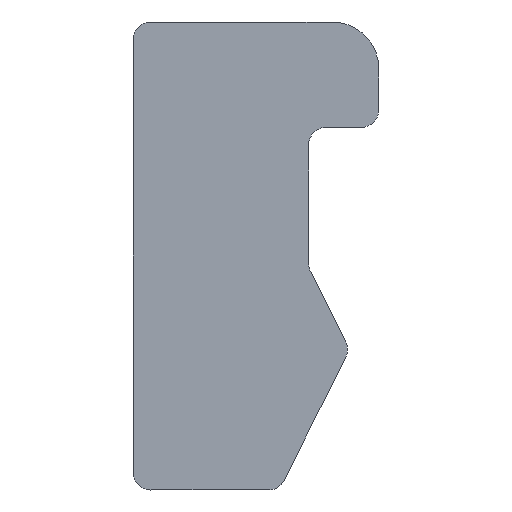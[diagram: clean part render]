
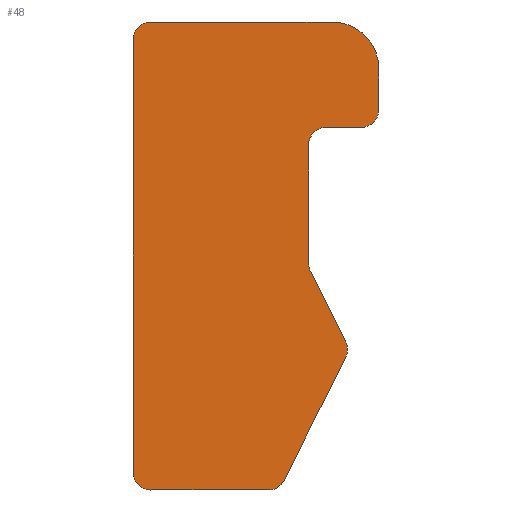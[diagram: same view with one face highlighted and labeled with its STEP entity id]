
A CAD part, left-side view. The second image highlights one B-rep face of the part: STEP entity #48.
In plain terms, the highlighted planar face has unit normal (-1, 0, 0).
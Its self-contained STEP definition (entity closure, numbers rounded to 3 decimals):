
#48=ADVANCED_FACE('',(#104),#105,.T.);
#104=FACE_OUTER_BOUND('',#165,.T.);
#105=PLANE('',#166);
#165=EDGE_LOOP('',(#235,#236,#237,#238,#239,#240,#241,#242,#243,#244,#245,#246,#247,#248,#249,#250));
#166=AXIS2_PLACEMENT_3D('',#251,#252,#253);
#235=ORIENTED_EDGE('',*,*,#386,.F.);
#236=ORIENTED_EDGE('',*,*,#394,.F.);
#237=ORIENTED_EDGE('',*,*,#395,.F.);
#238=ORIENTED_EDGE('',*,*,#396,.F.);
#239=ORIENTED_EDGE('',*,*,#397,.F.);
#240=ORIENTED_EDGE('',*,*,#398,.F.);
#241=ORIENTED_EDGE('',*,*,#399,.F.);
#242=ORIENTED_EDGE('',*,*,#400,.F.);
#243=ORIENTED_EDGE('',*,*,#401,.F.);
#244=ORIENTED_EDGE('',*,*,#402,.F.);
#245=ORIENTED_EDGE('',*,*,#391,.F.);
#246=ORIENTED_EDGE('',*,*,#403,.F.);
#247=ORIENTED_EDGE('',*,*,#381,.F.);
#248=ORIENTED_EDGE('',*,*,#404,.F.);
#249=ORIENTED_EDGE('',*,*,#405,.F.);
#250=ORIENTED_EDGE('',*,*,#406,.F.);
#251=CARTESIAN_POINT('',(0.0,2.7,1.5));
#252=DIRECTION('',(-1.0,0.0,0.0));
#253=DIRECTION('',(0.0,1.0,0.0));
#381=EDGE_CURVE('',#448,#450,#451,.T.);
#386=EDGE_CURVE('',#457,#459,#460,.T.);
#391=EDGE_CURVE('',#466,#468,#469,.T.);
#394=EDGE_CURVE('',#472,#457,#473,.T.);
#395=EDGE_CURVE('',#474,#472,#475,.T.);
#396=EDGE_CURVE('',#476,#474,#477,.T.);
#397=EDGE_CURVE('',#478,#476,#479,.T.);
#398=EDGE_CURVE('',#480,#478,#481,.T.);
#399=EDGE_CURVE('',#482,#480,#483,.T.);
#400=EDGE_CURVE('',#484,#482,#485,.T.);
#401=EDGE_CURVE('',#486,#484,#487,.T.);
#402=EDGE_CURVE('',#468,#486,#488,.T.);
#403=EDGE_CURVE('',#450,#466,#489,.T.);
#404=EDGE_CURVE('',#490,#448,#491,.T.);
#405=EDGE_CURVE('',#492,#490,#493,.T.);
#406=EDGE_CURVE('',#459,#492,#494,.T.);
#448=VERTEX_POINT('',#546);
#450=VERTEX_POINT('',#549);
#451=CIRCLE('',#550,0.3);
#457=VERTEX_POINT('',#557);
#459=VERTEX_POINT('',#560);
#460=CIRCLE('',#561,0.3);
#466=VERTEX_POINT('',#568);
#468=VERTEX_POINT('',#571);
#469=CIRCLE('',#572,0.3);
#472=VERTEX_POINT('',#576);
#473=LINE('',#577,#578);
#474=VERTEX_POINT('',#579);
#475=CIRCLE('',#580,0.3);
#476=VERTEX_POINT('',#581);
#477=LINE('',#582,#583);
#478=VERTEX_POINT('',#584);
#479=CIRCLE('',#585,0.3);
#480=VERTEX_POINT('',#586);
#481=LINE('',#587,#588);
#482=VERTEX_POINT('',#589);
#483=CIRCLE('',#590,0.3);
#484=VERTEX_POINT('',#591);
#485=LINE('',#592,#593);
#486=VERTEX_POINT('',#594);
#487=CIRCLE('',#595,0.3);
#488=LINE('',#596,#597);
#489=LINE('',#598,#599);
#490=VERTEX_POINT('',#600);
#491=LINE('',#601,#602);
#492=VERTEX_POINT('',#603);
#493=CIRCLE('',#604,0.8);
#494=LINE('',#605,#606);
#546=CARTESIAN_POINT('',(0.0,-1.2,0.3));
#549=CARTESIAN_POINT('',(0.0,-0.9,0.));
#550=AXIS2_PLACEMENT_3D('',#676,#677,#678);
#557=CARTESIAN_POINT('',(0.0,3.,1.5));
#560=CARTESIAN_POINT('',(0.0,2.7,1.8));
#561=AXIS2_PLACEMENT_3D('',#684,#685,#686);
#568=CARTESIAN_POINT('',(0.0,-0.3,0.));
#571=CARTESIAN_POINT('',(0.0,0.0,-0.3));
#572=AXIS2_PLACEMENT_3D('',#692,#693,#694);
#576=CARTESIAN_POINT('',(0.0,3.0,-5.9));
#577=CARTESIAN_POINT('',(0.0,3.0,-5.9));
#578=VECTOR('',#696,1.0);
#579=CARTESIAN_POINT('',(0.0,2.7,-6.2));
#580=AXIS2_PLACEMENT_3D('',#697,#698,#699);
#581=CARTESIAN_POINT('',(0.0,0.685,-6.2));
#582=CARTESIAN_POINT('',(0.0,0.685,-6.2));
#583=VECTOR('',#700,1.0);
#584=CARTESIAN_POINT('',(0.0,0.417,-6.034));
#585=AXIS2_PLACEMENT_3D('',#701,#702,#703);
#586=CARTESIAN_POINT('',(0.0,-0.633,-3.934));
#587=CARTESIAN_POINT('',(0.0,-0.633,-3.934));
#588=VECTOR('',#704,1.0);
#589=CARTESIAN_POINT('',(0.0,-0.633,-3.666));
#590=AXIS2_PLACEMENT_3D('',#705,#706,#707);
#591=CARTESIAN_POINT('',(0.0,-0.032,-2.463));
#592=CARTESIAN_POINT('',(0.0,-0.032,-2.463));
#593=VECTOR('',#708,1.0);
#594=CARTESIAN_POINT('',(0.0,0.,-2.329));
#595=AXIS2_PLACEMENT_3D('',#709,#710,#711);
#596=CARTESIAN_POINT('',(0.0,0.0,-0.3));
#597=VECTOR('',#712,1.0);
#598=CARTESIAN_POINT('',(0.0,-0.9,0.));
#599=VECTOR('',#713,1.0);
#600=CARTESIAN_POINT('',(0.0,-1.2,1.));
#601=CARTESIAN_POINT('',(0.0,-1.2,1.));
#602=VECTOR('',#714,1.0);
#603=CARTESIAN_POINT('',(0.0,-0.4,1.8));
#604=AXIS2_PLACEMENT_3D('',#715,#716,#717);
#605=CARTESIAN_POINT('',(0.0,2.7,1.8));
#606=VECTOR('',#718,1.0);
#676=CARTESIAN_POINT('',(0.0,-0.9,0.3));
#677=DIRECTION('',(1.0,0.0,0.0));
#678=DIRECTION('',(0.0,1.0,0.0));
#684=CARTESIAN_POINT('',(0.0,2.7,1.5));
#685=DIRECTION('',(1.0,0.0,0.0));
#686=DIRECTION('',(0.0,1.0,0.0));
#692=CARTESIAN_POINT('',(0.0,-0.3,-0.3));
#693=DIRECTION('',(-1.0,0.0,0.0));
#694=DIRECTION('',(0.0,-1.0,0.0));
#696=DIRECTION('',(0.0,0.,1.0));
#697=CARTESIAN_POINT('',(0.0,2.7,-5.9));
#698=DIRECTION('',(1.0,0.0,0.0));
#699=DIRECTION('',(0.0,1.0,0.0));
#700=DIRECTION('',(0.0,1.0,0.));
#701=CARTESIAN_POINT('',(0.0,0.685,-5.9));
#702=DIRECTION('',(1.0,0.0,0.0));
#703=DIRECTION('',(0.0,1.0,0.0));
#704=DIRECTION('',(0.0,0.447,-0.894));
#705=CARTESIAN_POINT('',(0.0,-0.365,-3.8));
#706=DIRECTION('',(1.0,0.0,0.0));
#707=DIRECTION('',(0.0,1.0,0.0));
#708=DIRECTION('',(0.0,-0.447,-0.894));
#709=CARTESIAN_POINT('',(0.0,-0.3,-2.329));
#710=DIRECTION('',(-1.0,0.0,0.0));
#711=DIRECTION('',(0.0,-1.0,0.0));
#712=DIRECTION('',(0.0,0.,-1.0));
#713=DIRECTION('',(0.0,1.0,0.));
#714=DIRECTION('',(0.0,0.,-1.0));
#715=CARTESIAN_POINT('',(0.0,-0.4,1.));
#716=DIRECTION('',(1.0,0.0,0.0));
#717=DIRECTION('',(0.0,1.0,0.0));
#718=DIRECTION('',(0.0,-1.0,0.));
